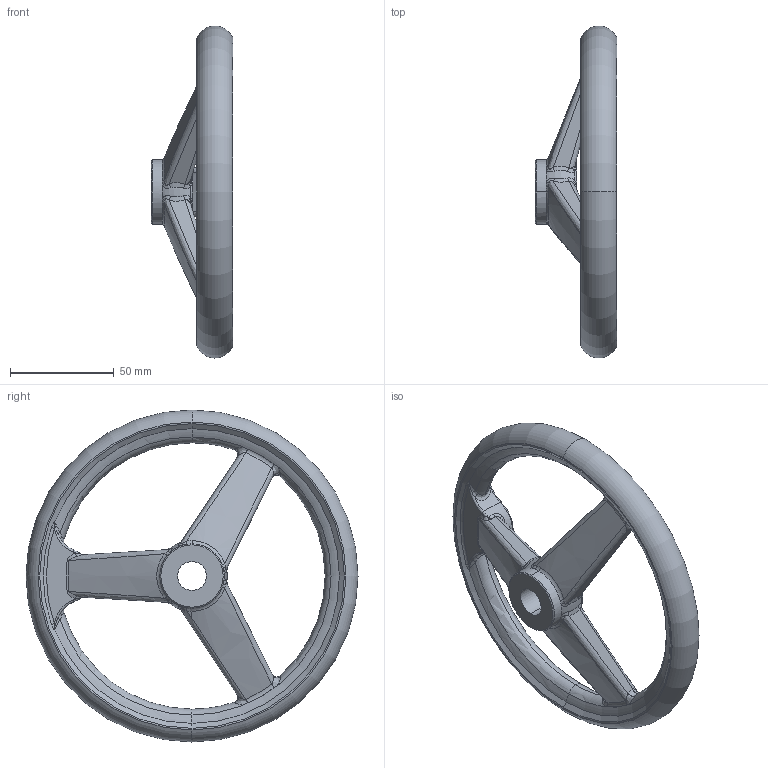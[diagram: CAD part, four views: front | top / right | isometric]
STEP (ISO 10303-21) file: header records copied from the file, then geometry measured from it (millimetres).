
FILE_DESCRIPTION (( 'STEP AP214' ), '1' );
FILE_NAME ('950.6-160-B14-A.step', '2021-06-16T07:20:14', ( '' ), ( '' ), 'SwSTEP 2.0', 'SolidWorks 2019', '' );
FILE_SCHEMA (( 'AUTOMOTIVE_DESIGN' ));
Length unit declared in the file: millimetre
Products named in the file (1): 950.6-160-B14-A
Bounding box: 39.5 x 160 x 160 mm (x, y, z)
Volume: 137665.2 mm3; surface area: 35879.6 mm2
Topology: 1 solids, 1 shells, 184 faces, 443 edges, 253 vertices
Faces by surface type: bspline 99, torus 47, cone 14, cylinder 14, plane 10
Entity records: 9669 total; most frequent: CARTESIAN_POINT 5915, ORIENTED_EDGE 882, DIRECTION 639, EDGE_CURVE 441, AXIS2_PLACEMENT_3D 308, VERTEX_POINT 253, CIRCLE 222, B_SPLINE_CURVE_WITH_KNOTS 196
